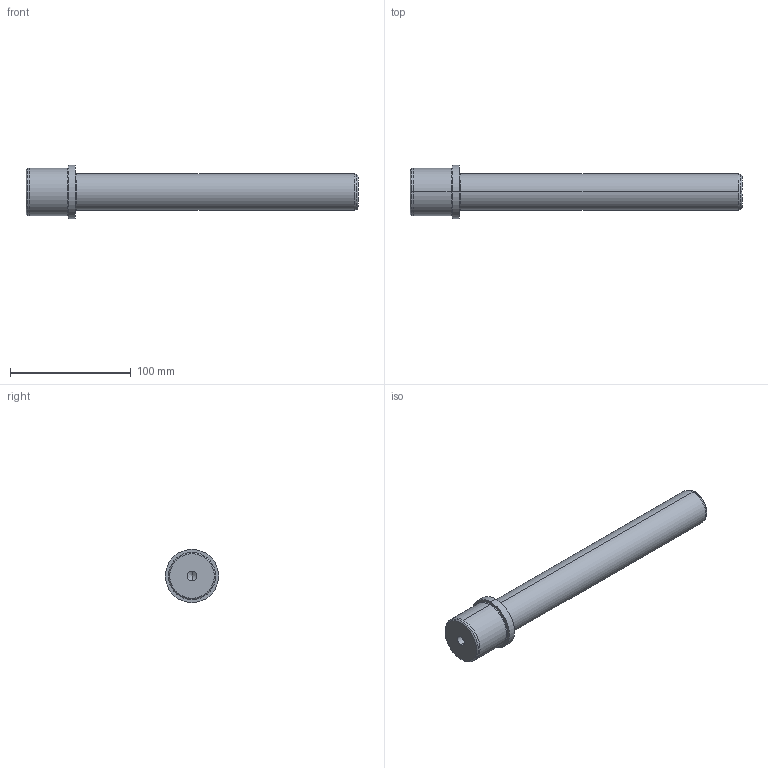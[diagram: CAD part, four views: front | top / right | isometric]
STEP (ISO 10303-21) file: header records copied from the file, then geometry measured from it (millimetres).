
FILE_DESCRIPTION( ( 'STEP AP203' ), '1' );
FILE_NAME( 'D:/Delta 3 D/D05/D05 - 30x240x35.step', '2002-12-31T22:45:17', ( ' ' ), ( ' ' ), 'XStep 1.0', ' ', ' ' );
FILE_SCHEMA( ( 'CONFIG_CONTROL_DESIGN' ) );
Length unit declared in the file: metre
Products named in the file (1): 1
Bounding box: 275 x 44 x 44 mm (x, y, z)
Volume: 215739.9 mm3; surface area: 30392.4 mm2
Topology: 1 solids, 1 shells, 29 faces, 58 edges, 35 vertices
Faces by surface type: revolution 20, bspline 9
Entity records: 855 total; most frequent: CARTESIAN_POINT 218, ORIENTED_EDGE 112, DIRECTION 110, EDGE_CURVE 56, AXIS2_PLACEMENT_3D 35, EDGE_LOOP 35, VERTEX_POINT 35, CIRCLE 34
